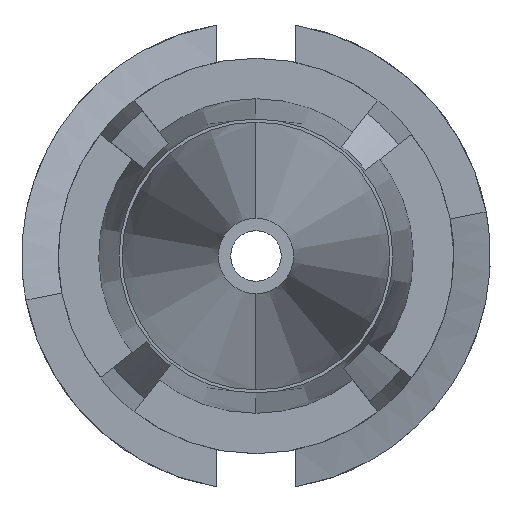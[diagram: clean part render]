
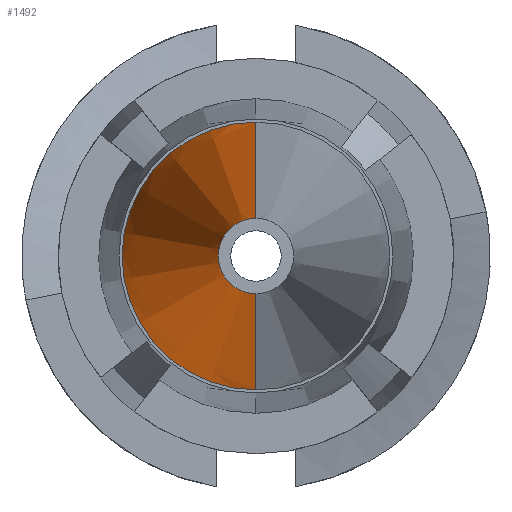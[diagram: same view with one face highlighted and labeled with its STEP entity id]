
A CAD part, left-side view. The second image highlights one B-rep face of the part: STEP entity #1492.
In plain terms, the highlighted conical face has half-angle 5.188 degrees and reference radius 2.2 mm.
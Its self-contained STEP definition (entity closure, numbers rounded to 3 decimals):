
#29 = EDGE_CURVE ( 'NONE', #1313, #421, #1368, .T. ) ;
#40 = EDGE_CURVE ( 'NONE', #736, #1313, #1706, .T. ) ;
#66 = CARTESIAN_POINT ( 'NONE',  ( -14., 0., 2.2 ) ) ;
#254 = EDGE_CURVE ( 'NONE', #736, #685, #286, .T. ) ;
#286 = LINE ( 'NONE', #578, #1187 ) ;
#296 = DIRECTION ( 'NONE',  ( 0., 0., -1. ) ) ;
#360 = EDGE_LOOP ( 'NONE', ( #510, #1498, #1396, #1400 ) ) ;
#421 = VERTEX_POINT ( 'NONE', #1489 ) ;
#448 = CARTESIAN_POINT ( 'NONE',  ( -14., 0., 0. ) ) ;
#453 = CIRCLE ( 'NONE', #1508, 2.2 ) ;
#510 = ORIENTED_EDGE ( 'NONE', *, *, #40, .T. ) ;
#548 = DIRECTION ( 'NONE',  ( 1., 0., 0. ) ) ;
#578 = CARTESIAN_POINT ( 'NONE',  ( -14., 0., -2.2 ) ) ;
#629 = CARTESIAN_POINT ( 'NONE',  ( -31.4, 0., 0.62 ) ) ;
#659 = DIRECTION ( 'NONE',  ( 1., 0., 0. ) ) ;
#685 = VERTEX_POINT ( 'NONE', #1261 ) ;
#736 = VERTEX_POINT ( 'NONE', #1599 ) ;
#805 = CARTESIAN_POINT ( 'NONE',  ( -31.4, 0., 0. ) ) ;
#855 = DIRECTION ( 'NONE',  ( 1., 0., 0. ) ) ;
#909 = AXIS2_PLACEMENT_3D ( 'NONE', #448, #855, #296 ) ;
#1085 = DIRECTION ( 'NONE',  ( 0.996, 0., 0.09 ) ) ;
#1187 = VECTOR ( 'NONE', #1291, 1000. ) ;
#1247 = DIRECTION ( 'NONE',  ( 0., 0., -1. ) ) ;
#1261 = CARTESIAN_POINT ( 'NONE',  ( -14., 0., -2.2 ) ) ;
#1291 = DIRECTION ( 'NONE',  ( 0.996, 0., -0.09 ) ) ;
#1303 = FACE_OUTER_BOUND ( 'NONE', #360, .T. ) ;
#1313 = VERTEX_POINT ( 'NONE', #629 ) ;
#1317 = CONICAL_SURFACE ( 'NONE', #909, 2.2, 0.091 ) ;
#1347 = AXIS2_PLACEMENT_3D ( 'NONE', #805, #659, #1247 ) ;
#1368 = LINE ( 'NONE', #66, #1640 ) ;
#1376 = EDGE_CURVE ( 'NONE', #685, #421, #453, .T. ) ;
#1396 = ORIENTED_EDGE ( 'NONE', *, *, #1376, .F. ) ;
#1400 = ORIENTED_EDGE ( 'NONE', *, *, #254, .F. ) ;
#1414 = DIRECTION ( 'NONE',  ( 0., 0., -1. ) ) ;
#1489 = CARTESIAN_POINT ( 'NONE',  ( -14., 0., 2.2 ) ) ;
#1492 = ADVANCED_FACE ( 'NONE', ( #1303 ), #1317, .T. ) ;
#1498 = ORIENTED_EDGE ( 'NONE', *, *, #29, .T. ) ;
#1508 = AXIS2_PLACEMENT_3D ( 'NONE', #1676, #548, #1414 ) ;
#1599 = CARTESIAN_POINT ( 'NONE',  ( -31.4, 0., -0.62 ) ) ;
#1640 = VECTOR ( 'NONE', #1085, 1000. ) ;
#1676 = CARTESIAN_POINT ( 'NONE',  ( -14., 0., 0. ) ) ;
#1706 = CIRCLE ( 'NONE', #1347, 0.62 ) ;
